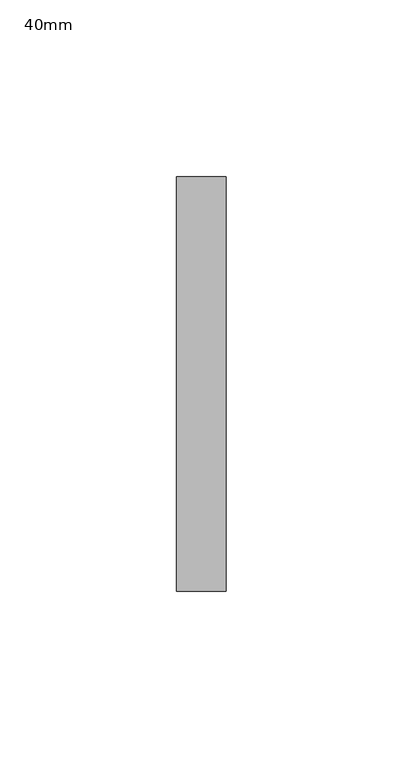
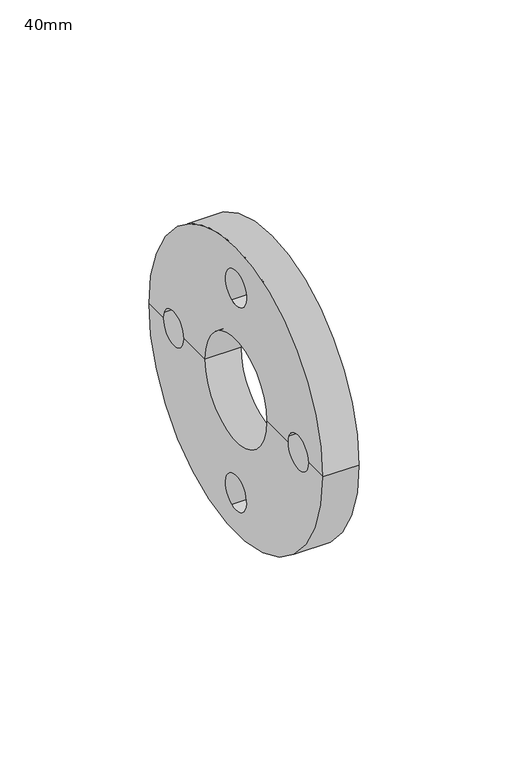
"""IFC4 building model written with IfcOpenShell, lengths in millimetres: pipe fitting geometry, Durapipe_PipeFitting_PVC_BackingFlange : 40mm."""

from ifc_helpers import new_model, si_unit, frame, origin, place, context, project, spatial, polyline, circle_curve, source, transform, mapped, element, save
from ifc_brep_helpers import plane_surface, cylinder_surface, revolved_surface, advanced_brep


def pipe_fitting_40mm_260ce3ac(model_context):
    return source(origin(), model_context, "Body", "AdvancedBrep", [
        advanced_brep(
        [(-7.0, 58.5, 0.0), (7.0, 58.5, 0.0), (7.0, -58.5, 0.0), (-7.0, -58.5, 0.0), (-7.0, -48.8999798, 0.0), (-7.0, -48.3661588, -2.696742), (-7.0, -34.9000144, 0.0), (-7.0, -21.0, 0.0), (-7.0, 21.0, 0.0), (-7.0, 34.9000144, 0.0), (-7.0, 35.4338354, -2.665628), (-7.0, 48.8999798, 0.0), (-7.0, 2.696742, -48.3661588), (-7.0, -2.665628, -35.4338354), (-7.0, 48.3661588, 2.696742), (-7.0, -35.4338354, 2.665628), (-7.0, -2.696742, 48.3661588), (-7.0, 2.665628, 35.4338354), (7.0, 21.0, 0.0), (7.0, -21.0, 0.0), (7.0, -34.9000144, 0.0), (7.0, -48.3661588, -2.696742), (7.0, -48.8999798, 0.0), (7.0, 48.8999798, 0.0), (7.0, 35.4338354, -2.665628), (7.0, 34.9000144, 0.0), (7.0, -2.665628, -35.4338354), (7.0, 2.696742, -48.3661588), (7.0, 48.3661588, 2.696742), (7.0, -35.4338354, 2.665628), (7.0, 2.665628, 35.4338354), (7.0, -2.696742, 48.3661588)],
        [
            (0, 1),
            (1, 2, circle_curve(frame((7.0, 0.0, 0.0), z_axis=(-1.0, 0.0, 0.0), x_axis=(0.0, 1.0, 0.0)), 58.5)),
            (2, 3),
            (3, 0, circle_curve(frame((-7.0, 0.0, 0.0), z_axis=(1.0, 0.0, 0.0), x_axis=(0.0, 1.0, 0.0)), 58.5)),
            (0, 3, circle_curve(frame((-7.0, 0.0, 0.0), z_axis=(1.0, 0.0, 0.0), x_axis=(0.0, 1.0, 0.0)), 58.5)),
            (2, 1, circle_curve(frame((7.0, 0.0, 0.0), z_axis=(-1.0, 0.0, 0.0), x_axis=(0.0, 1.0, 0.0)), 58.5)),
            (3, 4),
            (4, 5, circle_curve(frame((-7.0, -41.8999971, -0.015557), z_axis=(1.0, 0.0, 0.0), x_axis=(0.0, -0.9237373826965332, -0.38302643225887)), 7.0)),
            (5, 6, circle_curve(frame((-7.0, -41.8999971, -0.015557), z_axis=(1.0, 0.0, 0.0), x_axis=(0.0, -0.9237373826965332, -0.38302643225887)), 7.0)),
            (6, 7),
            (7, 8, circle_curve(frame((-7.0, 0.0, 0.0), z_axis=(1.0, 0.0, 0.0), x_axis=(0.0, 1.0, 0.0)), 21.0)),
            (8, 9),
            (9, 10, circle_curve(frame((-7.0, 41.8999971, 0.015557), z_axis=(1.0, 0.0, 0.0), x_axis=(0.0, 0.92373738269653, 0.3830264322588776)), 7.0)),
            (10, 11, circle_curve(frame((-7.0, 41.8999971, 0.015557), z_axis=(1.0, 0.0, 0.0), x_axis=(0.0, 0.92373738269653, 0.3830264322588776)), 7.0)),
            (11, 0),
            (12, 13, circle_curve(frame((-7.0, 0.015557, -41.8999971), z_axis=(1.0, 0.0, 0.0), x_axis=(0.0, 0.3830264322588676, -0.9237373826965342)), 7.0)),
            (13, 12, circle_curve(frame((-7.0, 0.015557, -41.8999971), z_axis=(1.0, 0.0, 0.0), x_axis=(0.0, 0.3830264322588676, -0.9237373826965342)), 7.0)),
            (11, 14, circle_curve(frame((-7.0, 41.8999971, 0.015557), z_axis=(1.0, 0.0, 0.0), x_axis=(0.0, 0.92373738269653, 0.3830264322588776)), 7.0)),
            (14, 9, circle_curve(frame((-7.0, 41.8999971, 0.015557), z_axis=(1.0, 0.0, 0.0), x_axis=(0.0, 0.92373738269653, 0.3830264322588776)), 7.0)),
            (8, 7, circle_curve(frame((-7.0, 0.0, 0.0), z_axis=(1.0, 0.0, 0.0), x_axis=(0.0, 1.0, 0.0)), 21.0)),
            (6, 15, circle_curve(frame((-7.0, -41.8999971, -0.015557), z_axis=(1.0, 0.0, 0.0), x_axis=(0.0, -0.9237373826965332, -0.38302643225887)), 7.0)),
            (15, 4, circle_curve(frame((-7.0, -41.8999971, -0.015557), z_axis=(1.0, 0.0, 0.0), x_axis=(0.0, -0.9237373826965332, -0.38302643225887)), 7.0)),
            (16, 17, circle_curve(frame((-7.0, -0.015557, 41.8999971), z_axis=(1.0, 0.0, 0.0), x_axis=(0.0, -0.3830264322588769, 0.9237373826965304)), 7.0)),
            (17, 16, circle_curve(frame((-7.0, -0.015557, 41.8999971), z_axis=(1.0, 0.0, 0.0), x_axis=(0.0, -0.3830264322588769, 0.9237373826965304)), 7.0)),
            (18, 8),
            (7, 19),
            (19, 18, circle_curve(frame((7.0, 0.0, 0.0), z_axis=(1.0, 0.0, 0.0), x_axis=(0.0, 1.0, 0.0)), 21.0)),
            (18, 19, circle_curve(frame((7.0, 0.0, 0.0), z_axis=(1.0, 0.0, 0.0), x_axis=(0.0, 1.0, 0.0)), 21.0)),
            (19, 20),
            (20, 21, circle_curve(frame((7.0, -41.8999971, -0.015557), z_axis=(-1.0, 0.0, 0.0), x_axis=(0.0, -0.9237373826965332, -0.38302643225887)), 7.0)),
            (21, 22, circle_curve(frame((7.0, -41.8999971, -0.015557), z_axis=(-1.0, 0.0, 0.0), x_axis=(0.0, -0.9237373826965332, -0.38302643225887)), 7.0)),
            (22, 2),
            (1, 23),
            (23, 24, circle_curve(frame((7.0, 41.8999971, 0.015557), z_axis=(-1.0, 0.0, 0.0), x_axis=(0.0, 0.92373738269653, 0.3830264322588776)), 7.0)),
            (24, 25, circle_curve(frame((7.0, 41.8999971, 0.015557), z_axis=(-1.0, 0.0, 0.0), x_axis=(0.0, 0.92373738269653, 0.3830264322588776)), 7.0)),
            (25, 18),
            (26, 27, circle_curve(frame((7.0, 0.015557, -41.8999971), z_axis=(-1.0, 0.0, 0.0), x_axis=(0.0, 0.3830264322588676, -0.9237373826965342)), 7.0)),
            (27, 26, circle_curve(frame((7.0, 0.015557, -41.8999971), z_axis=(-1.0, 0.0, 0.0), x_axis=(0.0, 0.3830264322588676, -0.9237373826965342)), 7.0)),
            (25, 28, circle_curve(frame((7.0, 41.8999971, 0.015557), z_axis=(-1.0, 0.0, 0.0), x_axis=(0.0, 0.92373738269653, 0.3830264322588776)), 7.0)),
            (28, 23, circle_curve(frame((7.0, 41.8999971, 0.015557), z_axis=(-1.0, 0.0, 0.0), x_axis=(0.0, 0.92373738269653, 0.3830264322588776)), 7.0)),
            (22, 29, circle_curve(frame((7.0, -41.8999971, -0.015557), z_axis=(-1.0, 0.0, 0.0), x_axis=(0.0, -0.9237373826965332, -0.38302643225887)), 7.0)),
            (29, 20, circle_curve(frame((7.0, -41.8999971, -0.015557), z_axis=(-1.0, 0.0, 0.0), x_axis=(0.0, -0.9237373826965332, -0.38302643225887)), 7.0)),
            (30, 31, circle_curve(frame((7.0, -0.015557, 41.8999971), z_axis=(-1.0, 0.0, 0.0), x_axis=(0.0, -0.3830264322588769, 0.9237373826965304)), 7.0)),
            (31, 30, circle_curve(frame((7.0, -0.015557, 41.8999971), z_axis=(-1.0, 0.0, 0.0), x_axis=(0.0, -0.3830264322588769, 0.9237373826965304)), 7.0)),
            (26, 13),
            (12, 27),
            (24, 10),
            (14, 28),
            (30, 17),
            (16, 31),
            (29, 15),
            (5, 21),
        ],
        [
            cylinder_surface(frame((-25.7738734, 0.0, 0.0), z_axis=(-1.0, 0.0, 0.0), x_axis=(0.0, 1.0, 0.0)), 58.5),
            plane_surface(frame((-7.0, 0.0, 0.0), z_axis=(-1.0, 0.0, 0.0), x_axis=(0.0, 1.0, 0.0))),
            revolved_surface(polyline([(-7.0, 21.0, 0.0), (7.0, 21.0, 0.0)]), (-25.7738734, 0.0, 0.0), (-1.0, 0.0, 0.0)),
            plane_surface(frame((7.0, 0.0, 0.0), z_axis=(1.0, 0.0, 0.0), x_axis=(0.0, 1.0, 0.0))),
            revolved_surface(polyline([(-7.000000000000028, 2.6967420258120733, -48.36615877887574), (6.999999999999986, 2.6967420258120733, -48.36615877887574)]), (43.0, 0.015557, -41.8999971), (-1.0000000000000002, 0.0, 0.0)),
            revolved_surface(polyline([(-7.0, 48.366158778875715, 2.696742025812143), (7.0, 48.366158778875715, 2.696742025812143)]), (43.0, 41.8999971, 0.015557), (-1.0, 0.0, 0.0)),
            revolved_surface(polyline([(-7.000000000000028, -2.696742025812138, 48.366158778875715), (6.999999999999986, -2.696742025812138, 48.366158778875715)]), (43.0, -0.015557, 41.8999971), (-1.0000000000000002, 0.0, 0.0)),
            revolved_surface(polyline([(-7.0, -48.36615877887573, -2.6967420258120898), (7.0, -48.36615877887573, -2.6967420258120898)]), (43.0, -41.8999971, -0.015557), (-1.0, 0.0, 0.0)),
        ],
        [
            (0, [[1, 2, 3, 4]]),
            (0, [[-1, 5, -3, 6]]),
            (1, [[-4, 7, 8, 9, 10, 11, 12, 13, 14, 15], [16, 17]]),
            (1, [[-5, -15, 18, 19, -12, 20, -10, 21, 22, -7], [23, 24]]),
            (2, [[25, -11, 26, 27]]),
            (2, [[-25, 28, -26, -20]]),
            (3, [[-27, 29, 30, 31, 32, -2, 33, 34, 35, 36], [37, 38]]),
            (3, [[-28, -36, 39, 40, -33, -6, -32, 41, 42, -29], [43, 44]]),
            (4, [[45, -16, 46, -37]]),
            (4, [[-45, -38, -46, -17]]),
            (5, [[47, -13, -19, 48, -39, -35]]),
            (5, [[-47, -34, -40, -48, -18, -14]]),
            (6, [[49, -23, 50, -43]]),
            (6, [[-49, -44, -50, -24]]),
            (7, [[51, -21, -9, 52, -30, -42]]),
            (7, [[-51, -41, -31, -52, -8, -22]]),
        ],
    ),
    ])


if __name__ == "__main__":
    model = new_model("IFC4")
    model_context = context("Model", 3, world=origin())
    ifc_project = project(units=[si_unit("LENGTHUNIT", "METRE", prefix="MILLI")], contexts=[model_context])
    site = spatial("IfcSite", under=ifc_project)
    building = spatial("IfcBuilding", under=site)
    placement = place(None, origin())
    pipe_fitting_40mm_shape = pipe_fitting_40mm_260ce3ac(model_context)
    element("IfcPipeFitting", 1, ObjectType="Durapipe_PipeFitting_PVC_BackingFlange : 40mm", at=placement, inside=building, context=model_context, shape_type="MappedRepresentation", body=[
        mapped(pipe_fitting_40mm_shape, transform((0.0, 0.0, 0.0), x_axis=(1.0, 0.0, 0.0), y_axis=(0.0, 1.0, 0.0), z_axis=(0.0, 0.0, 1.0))),
    ])
    save(model, "model.ifc")
